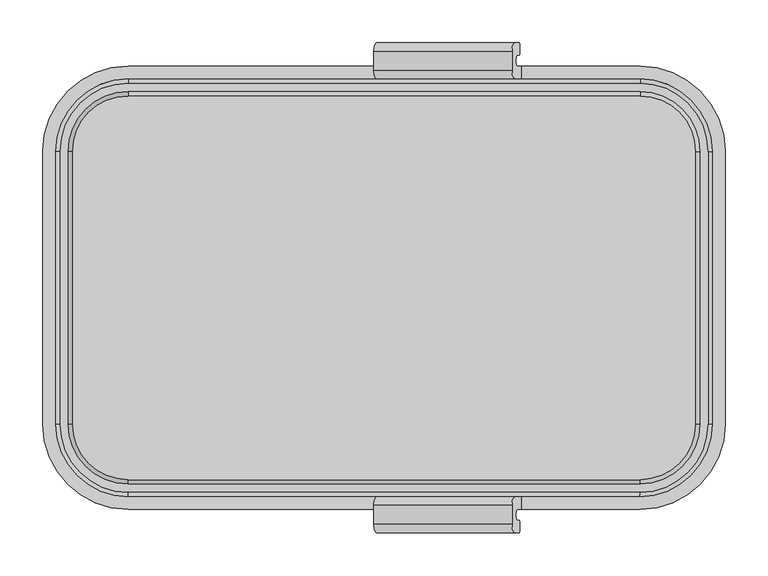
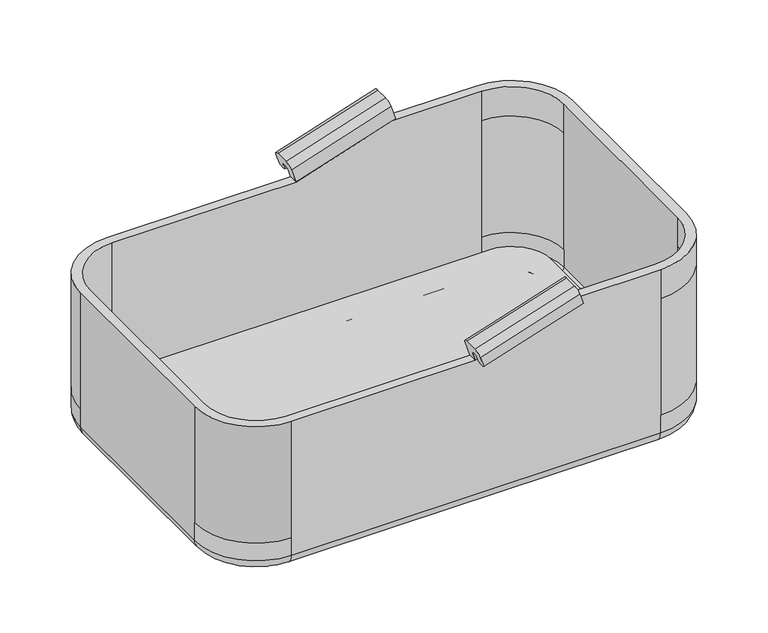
"""IFC4 building model written with IfcOpenShell, lengths in millimetres: furniture geometry, BIMHealth-Cot-LOD2A-v1 : BIMHealth-Cot-LOD2A-v1."""

from ifc_helpers import new_model, si_unit, point, frame, frame_2d, origin, place, context, project, spatial, polyline, circle_curve, ellipse_curve, trimmed, segment, composite_curve, outline, extrude, source, transform, mapped, element, save
from ifc_brep_helpers import plane_surface, cylinder_surface, revolved_surface, advanced_brep


def furniture_eb8bed29(model_context):
    return source(origin(), model_context, "Body", "SolidModel", [
        advanced_brep(
        [(300.0, -272.5, 783.3435359), (400.0, -172.5, 783.3435359), (400.0, -172.5, 813.3435359), (300.0, -272.5, 813.3435359), (300.0, -252.5, 763.3435359), (380.0, -172.5, 763.3435359), (300.0, -222.5, 783.3435359), (350.0, -172.5, 783.3435359), (370.0, -172.5, 763.3435359), (300.0, -242.5, 763.3435359), (300.0, -222.5, 788.3435359), (350.0, -172.5, 788.3435359), (300.0, -237.5, 783.3435359), (365.0, -172.5, 783.3435359), (365.0, -172.5, 803.3435359), (300.0, -237.5, 803.3435359), (300.0, -242.5, 778.3435359), (370.0, -172.5, 778.3435359), (300.0, -257.5, 783.3435359), (385.0, -172.5, 783.3435359), (380.0, -172.5, 778.3435359), (300.0, -252.5, 778.3435359), (300.0, -257.5, 813.3435359), (385.0, -172.5, 813.3435359), (300.0, -272.5, 1013.3435359), (300.0, -272.5, 1063.7133718), (155.4900007, -272.5, 1063.7133718), (-1.1191289, -272.5, 1013.3435359), (-300.0, -272.5, 1013.3435359), (-300.0, -272.5, 813.3435359), (-300.0, -272.5, 783.3435359), (-300.0, -252.5, 763.3435359), (-300.0, -242.5, 763.3435359), (-300.0, -222.5, 783.3435359), (-300.0, -222.5, 788.3435359), (-300.0, -237.5, 803.3435359), (-300.0, -237.5, 783.3435359), (-300.0, -242.5, 778.3435359), (-300.0, -252.5, 778.3435359), (-300.0, -257.5, 783.3435359), (-300.0, -257.5, 813.3435359), (-300.0, -257.5, 1013.3435359), (-1.1191289, -257.5, 1013.3435359), (155.4900007, -257.5, 1063.7133718), (300.0, -257.5, 1063.7133718), (300.0, -257.5, 1013.3435359), (-400.0, -172.5, 813.3435359), (-400.0, -172.5, 783.3435359), (-380.0, -172.5, 763.3435359), (-370.0, -172.5, 763.3435359), (-350.0, -172.5, 783.3435359), (-350.0, -172.5, 788.3435359), (-365.0, -172.5, 803.3435359), (-365.0, -172.5, 783.3435359), (-370.0, -172.5, 778.3435359), (-380.0, -172.5, 778.3435359), (-385.0, -172.5, 783.3435359), (-385.0, -172.5, 813.3435359), (-400.0, -172.5, 1013.3435359), (-400.0, 147.5, 1013.3435359), (-400.0, 147.5, 813.3435359), (-400.0, 147.5, 783.3435359), (-380.0, 147.5, 763.3435359), (-370.0, 147.5, 763.3435359), (-350.0, 147.5, 783.3435359), (-350.0, 147.5, 788.3435359), (-365.0, 147.5, 803.3435359), (-365.0, 147.5, 783.3435359), (-370.0, 147.5, 778.3435359), (-380.0, 147.5, 778.3435359), (-385.0, 147.5, 783.3435359), (-385.0, 147.5, 813.3435359), (-385.0, 147.5, 1013.3435359), (-385.0, -172.5, 1013.3435359), (-300.0, 247.5, 813.3435359), (-300.0, 247.5, 783.3435359), (-300.0, 227.5, 763.3435359), (-300.0, 217.5, 763.3435359), (-300.0, 197.5, 783.3435359), (-300.0, 197.5, 788.3435359), (-300.0, 212.5, 803.3435359), (-300.0, 212.5, 783.3435359), (-300.0, 217.5, 778.3435359), (-300.0, 227.5, 778.3435359), (-300.0, 232.5, 783.3435359), (-300.0, 232.5, 813.3435359), (-300.0, 247.5, 1013.3435359), (-1.1191289, 247.5, 1013.3435359), (155.4900007, 247.5, 1063.7133718), (300.0, 247.5, 1063.7133718), (300.0, 247.5, 1013.3435359), (300.0, 247.5, 813.3435359), (300.0, 247.5, 783.3435359), (300.0, 227.5, 763.3435359), (300.0, 217.5, 763.3435359), (300.0, 197.5, 783.3435359), (300.0, 197.5, 788.3435359), (300.0, 212.5, 803.3435359), (300.0, 212.5, 783.3435359), (300.0, 217.5, 778.3435359), (300.0, 227.5, 778.3435359), (300.0, 232.5, 783.3435359), (300.0, 232.5, 813.3435359), (300.0, 232.5, 1013.3435359), (300.0, 232.5, 1063.7133718), (155.4900007, 232.5, 1063.7133718), (-1.1191289, 232.5, 1013.3435359), (-300.0, 232.5, 1013.3435359), (400.0, 147.5, 813.3435359), (400.0, 147.5, 783.3435359), (380.0, 147.5, 763.3435359), (370.0, 147.5, 763.3435359), (350.0, 147.5, 783.3435359), (350.0, 147.5, 788.3435359), (365.0, 147.5, 803.3435359), (365.0, 147.5, 783.3435359), (370.0, 147.5, 778.3435359), (380.0, 147.5, 778.3435359), (385.0, 147.5, 783.3435359), (385.0, 147.5, 813.3435359), (400.0, 147.5, 1013.3435359), (400.0, 147.5, 1063.7133718), (400.0, -172.5, 1063.7133718), (400.0, -172.5, 1013.3435359), (385.0, -172.5, 1013.3435359), (385.0, -172.5, 1063.7133718), (385.0, 147.5, 1063.7133718), (385.0, 147.5, 1013.3435359)],
        [
            (0, 1, circle_curve(frame((300.0, -172.5, 783.3435359), z_axis=(0.0, 0.0, 1.0), x_axis=(1.0, 0.0, 0.0)), 100.0)),
            (1, 2),
            (2, 3, circle_curve(frame((300.0, -172.5, 813.3435359), z_axis=(0.0, 0.0, -1.0), x_axis=(1.0, 0.0, 0.0)), 100.0)),
            (3, 0),
            (0, 4, circle_curve(frame((300.0, -252.5, 783.3435359), z_axis=(1.0, 0.0, 0.0), x_axis=(0.0, 1.0, 0.0)), 20.0)),
            (4, 5, circle_curve(frame((300.0, -172.5, 763.3435359), z_axis=(0.0, 0.0, 1.0), x_axis=(1.0, 0.0, 0.0)), 80.0)),
            (5, 1, circle_curve(frame((380.0, -172.5, 783.3435359), z_axis=(0.0, -1.0, 0.0), x_axis=(-1.0, 0.0, 0.0)), 20.0)),
            (6, 7, circle_curve(frame((300.0, -172.5, 783.3435359), z_axis=(0.0, 0.0, 1.0), x_axis=(1.0, 0.0, 0.0)), 50.0)),
            (7, 8, circle_curve(frame((370.0, -172.5, 783.3435359), z_axis=(0.0, -1.0, 0.0), x_axis=(-1.0, 0.0, 0.0)), 20.0)),
            (8, 9, circle_curve(frame((300.0, -172.5, 763.3435359), z_axis=(0.0, 0.0, -1.0), x_axis=(1.0, 0.0, 0.0)), 70.0)),
            (9, 6, circle_curve(frame((300.0, -242.5, 783.3435359), z_axis=(1.0, 0.0, 0.0), x_axis=(0.0, 1.0, 0.0)), 20.0)),
            (6, 10),
            (10, 11, circle_curve(frame((300.0, -172.5, 788.3435359), z_axis=(0.0, 0.0, 1.0), x_axis=(1.0, 0.0, 0.0)), 50.0)),
            (11, 7),
            (12, 13, circle_curve(frame((300.0, -172.5, 783.3435359), z_axis=(0.0, 0.0, 1.0), x_axis=(1.0, 0.0, 0.0)), 65.0)),
            (13, 14),
            (14, 15, circle_curve(frame((300.0, -172.5, 803.3435359), z_axis=(0.0, 0.0, -1.0), x_axis=(1.0, 0.0, 0.0)), 65.0)),
            (15, 12),
            (12, 16, circle_curve(frame((300.0, -242.5, 783.3435359), z_axis=(-1.0, 0.0, 0.0), x_axis=(0.0, 1.0, 0.0)), 5.0)),
            (16, 17, circle_curve(frame((300.0, -172.5, 778.3435359), z_axis=(0.0, 0.0, 1.0), x_axis=(1.0, 0.0, 0.0)), 70.0)),
            (17, 13, circle_curve(frame((370.0, -172.5, 783.3435359), z_axis=(0.0, 1.0, 0.0), x_axis=(-1.0, 0.0, 0.0)), 5.0)),
            (18, 19, circle_curve(frame((300.0, -172.5, 783.3435359), z_axis=(0.0, 0.0, 1.0), x_axis=(1.0, 0.0, 0.0)), 85.0)),
            (19, 20, circle_curve(frame((380.0, -172.5, 783.3435359), z_axis=(0.0, 1.0, 0.0), x_axis=(-1.0, 0.0, 0.0)), 5.0)),
            (20, 21, circle_curve(frame((300.0, -172.5, 778.3435359), z_axis=(0.0, 0.0, -1.0), x_axis=(1.0, 0.0, 0.0)), 80.0)),
            (21, 18, circle_curve(frame((300.0, -252.5, 783.3435359), z_axis=(-1.0, 0.0, 0.0), x_axis=(0.0, 1.0, 0.0)), 5.0)),
            (18, 22),
            (22, 23, circle_curve(frame((300.0, -172.5, 813.3435359), z_axis=(0.0, 0.0, 1.0), x_axis=(1.0, 0.0, 0.0)), 85.0)),
            (23, 19),
            (3, 24),
            (24, 25),
            (25, 26),
            (26, 27),
            (27, 28),
            (28, 29),
            (29, 30),
            (30, 0),
            (30, 31, circle_curve(frame((-300.0, -252.5, 783.3435359), z_axis=(1.0, 0.0, 0.0), x_axis=(0.0, 1.0, 0.0)), 20.0)),
            (31, 4),
            (9, 32),
            (32, 33, circle_curve(frame((-300.0, -242.5, 783.3435359), z_axis=(1.0, 0.0, 0.0), x_axis=(0.0, 1.0, 0.0)), 20.0)),
            (33, 6),
            (33, 34),
            (34, 10),
            (15, 35),
            (35, 36),
            (36, 12),
            (36, 37, circle_curve(frame((-300.0, -242.5, 783.3435359), z_axis=(-1.0, 0.0, 0.0), x_axis=(0.0, 1.0, 0.0)), 5.0)),
            (37, 16),
            (21, 38),
            (38, 39, circle_curve(frame((-300.0, -252.5, 783.3435359), z_axis=(-1.0, 0.0, 0.0), x_axis=(0.0, 1.0, 0.0)), 5.0)),
            (39, 18),
            (39, 40),
            (40, 41),
            (41, 42),
            (42, 43),
            (43, 44),
            (44, 45),
            (45, 22),
            (29, 46, circle_curve(frame((-300.0, -172.5, 813.3435359), z_axis=(0.0, 0.0, -1.0), x_axis=(0.0, -1.0, 0.0)), 100.0)),
            (46, 47),
            (47, 30, circle_curve(frame((-300.0, -172.5, 783.3435359), z_axis=(0.0, 0.0, 1.0), x_axis=(0.0, -1.0, 0.0)), 100.0)),
            (47, 48, circle_curve(frame((-380.0, -172.5, 783.3435359), z_axis=(0.0, -1.0, 0.0), x_axis=(1.0, 0.0, 0.0)), 20.0)),
            (48, 31, circle_curve(frame((-300.0, -172.5, 763.3435359), z_axis=(0.0, 0.0, 1.0), x_axis=(0.0, -1.0, 0.0)), 80.0)),
            (32, 49, circle_curve(frame((-300.0, -172.5, 763.3435359), z_axis=(0.0, 0.0, -1.0), x_axis=(0.0, -1.0, 0.0)), 70.0)),
            (49, 50, circle_curve(frame((-370.0, -172.5, 783.3435359), z_axis=(0.0, -1.0, 0.0), x_axis=(1.0, 0.0, 0.0)), 20.0)),
            (50, 33, circle_curve(frame((-300.0, -172.5, 783.3435359), z_axis=(0.0, 0.0, 1.0), x_axis=(0.0, -1.0, 0.0)), 50.0)),
            (50, 51),
            (51, 34, circle_curve(frame((-300.0, -172.5, 788.3435359), z_axis=(0.0, 0.0, 1.0), x_axis=(0.0, -1.0, 0.0)), 50.0)),
            (35, 52, circle_curve(frame((-300.0, -172.5, 803.3435359), z_axis=(0.0, 0.0, -1.0), x_axis=(0.0, -1.0, 0.0)), 65.0)),
            (52, 53),
            (53, 36, circle_curve(frame((-300.0, -172.5, 783.3435359), z_axis=(0.0, 0.0, 1.0), x_axis=(0.0, -1.0, 0.0)), 65.0)),
            (53, 54, circle_curve(frame((-370.0, -172.5, 783.3435359), z_axis=(0.0, 1.0, 0.0), x_axis=(1.0, 0.0, 0.0)), 5.0)),
            (54, 37, circle_curve(frame((-300.0, -172.5, 778.3435359), z_axis=(0.0, 0.0, 1.0), x_axis=(0.0, -1.0, 0.0)), 70.0)),
            (38, 55, circle_curve(frame((-300.0, -172.5, 778.3435359), z_axis=(0.0, 0.0, -1.0), x_axis=(0.0, -1.0, 0.0)), 80.0)),
            (55, 56, circle_curve(frame((-380.0, -172.5, 783.3435359), z_axis=(0.0, 1.0, 0.0), x_axis=(1.0, 0.0, 0.0)), 5.0)),
            (56, 39, circle_curve(frame((-300.0, -172.5, 783.3435359), z_axis=(0.0, 0.0, 1.0), x_axis=(0.0, -1.0, 0.0)), 85.0)),
            (56, 57),
            (57, 40, circle_curve(frame((-300.0, -172.5, 813.3435359), z_axis=(0.0, 0.0, 1.0), x_axis=(0.0, -1.0, 0.0)), 85.0)),
            (46, 58),
            (58, 59),
            (59, 60),
            (60, 61),
            (61, 47),
            (61, 62, circle_curve(frame((-380.0, 147.5, 783.3435359), z_axis=(0.0, -1.0, 0.0), x_axis=(1.0, 0.0, 0.0)), 20.0)),
            (62, 48),
            (49, 63),
            (63, 64, circle_curve(frame((-370.0, 147.5, 783.3435359), z_axis=(0.0, -1.0, 0.0), x_axis=(1.0, 0.0, 0.0)), 20.0)),
            (64, 50),
            (64, 65),
            (65, 51),
            (52, 66),
            (66, 67),
            (67, 53),
            (67, 68, circle_curve(frame((-370.0, 147.5, 783.3435359), z_axis=(0.0, 1.0, 0.0), x_axis=(1.0, 0.0, 0.0)), 5.0)),
            (68, 54),
            (55, 69),
            (69, 70, circle_curve(frame((-380.0, 147.5, 783.3435359), z_axis=(0.0, 1.0, 0.0), x_axis=(1.0, 0.0, 0.0)), 5.0)),
            (70, 56),
            (70, 71),
            (71, 72),
            (72, 73),
            (73, 57),
            (60, 74, circle_curve(frame((-300.0, 147.5, 813.3435359), z_axis=(0.0, 0.0, -1.0), x_axis=(-1.0, 0.0, 0.0)), 100.0)),
            (74, 75),
            (75, 61, circle_curve(frame((-300.0, 147.5, 783.3435359), z_axis=(0.0, 0.0, 1.0), x_axis=(-1.0, 0.0, 0.0)), 100.0)),
            (75, 76, circle_curve(frame((-300.0, 227.5, 783.3435359), z_axis=(-1.0, 0.0, 0.0), x_axis=(0.0, -1.0, 0.0)), 20.0)),
            (76, 62, circle_curve(frame((-300.0, 147.5, 763.3435359), z_axis=(0.0, 0.0, 1.0), x_axis=(-1.0, 0.0, 0.0)), 80.0)),
            (63, 77, circle_curve(frame((-300.0, 147.5, 763.3435359), z_axis=(0.0, 0.0, -1.0), x_axis=(-1.0, 0.0, 0.0)), 70.0)),
            (77, 78, circle_curve(frame((-300.0, 217.5, 783.3435359), z_axis=(-1.0, 0.0, 0.0), x_axis=(0.0, -1.0, 0.0)), 20.0)),
            (78, 64, circle_curve(frame((-300.0, 147.5, 783.3435359), z_axis=(0.0, 0.0, 1.0), x_axis=(-1.0, 0.0, 0.0)), 50.0)),
            (78, 79),
            (79, 65, circle_curve(frame((-300.0, 147.5, 788.3435359), z_axis=(0.0, 0.0, 1.0), x_axis=(-1.0, 0.0, 0.0)), 50.0)),
            (66, 80, circle_curve(frame((-300.0, 147.5, 803.3435359), z_axis=(0.0, 0.0, -1.0), x_axis=(-1.0, 0.0, 0.0)), 65.0)),
            (80, 81),
            (81, 67, circle_curve(frame((-300.0, 147.5, 783.3435359), z_axis=(0.0, 0.0, 1.0), x_axis=(-1.0, 0.0, 0.0)), 65.0)),
            (81, 82, circle_curve(frame((-300.0, 217.5, 783.3435359), z_axis=(1.0, 0.0, 0.0), x_axis=(0.0, -1.0, 0.0)), 5.0)),
            (82, 68, circle_curve(frame((-300.0, 147.5, 778.3435359), z_axis=(0.0, 0.0, 1.0), x_axis=(-1.0, 0.0, 0.0)), 70.0)),
            (69, 83, circle_curve(frame((-300.0, 147.5, 778.3435359), z_axis=(0.0, 0.0, -1.0), x_axis=(-1.0, 0.0, 0.0)), 80.0)),
            (83, 84, circle_curve(frame((-300.0, 227.5, 783.3435359), z_axis=(1.0, 0.0, 0.0), x_axis=(0.0, -1.0, 0.0)), 5.0)),
            (84, 70, circle_curve(frame((-300.0, 147.5, 783.3435359), z_axis=(0.0, 0.0, 1.0), x_axis=(-1.0, 0.0, 0.0)), 85.0)),
            (84, 85),
            (85, 71, circle_curve(frame((-300.0, 147.5, 813.3435359), z_axis=(0.0, 0.0, 1.0), x_axis=(-1.0, 0.0, 0.0)), 85.0)),
            (74, 86),
            (86, 87),
            (87, 88),
            (88, 89),
            (89, 90),
            (90, 91),
            (91, 92),
            (92, 75),
            (92, 93, circle_curve(frame((300.0, 227.5, 783.3435359), z_axis=(-1.0, 0.0, 0.0), x_axis=(0.0, -1.0, 0.0)), 20.0)),
            (93, 76),
            (77, 94),
            (94, 95, circle_curve(frame((300.0, 217.5, 783.3435359), z_axis=(-1.0, 0.0, 0.0), x_axis=(0.0, -1.0, 0.0)), 20.0)),
            (95, 78),
            (95, 96),
            (96, 79),
            (80, 97),
            (97, 98),
            (98, 81),
            (98, 99, circle_curve(frame((300.0, 217.5, 783.3435359), z_axis=(1.0, 0.0, 0.0), x_axis=(0.0, -1.0, 0.0)), 5.0)),
            (99, 82),
            (83, 100),
            (100, 101, circle_curve(frame((300.0, 227.5, 783.3435359), z_axis=(1.0, 0.0, 0.0), x_axis=(0.0, -1.0, 0.0)), 5.0)),
            (101, 84),
            (101, 102),
            (102, 103),
            (103, 104),
            (104, 105),
            (105, 106),
            (106, 107),
            (107, 85),
            (91, 108, circle_curve(frame((300.0, 147.5, 813.3435359), z_axis=(0.0, 0.0, -1.0), x_axis=(0.0, 1.0, 0.0)), 100.0)),
            (108, 109),
            (109, 92, circle_curve(frame((300.0, 147.5, 783.3435359), z_axis=(0.0, 0.0, 1.0), x_axis=(0.0, 1.0, 0.0)), 100.0)),
            (109, 110, circle_curve(frame((380.0, 147.5, 783.3435359), z_axis=(0.0, 1.0, 0.0), x_axis=(-1.0, 0.0, 0.0)), 20.0)),
            (110, 93, circle_curve(frame((300.0, 147.5, 763.3435359), z_axis=(0.0, 0.0, 1.0), x_axis=(0.0, 1.0, 0.0)), 80.0)),
            (94, 111, circle_curve(frame((300.0, 147.5, 763.3435359), z_axis=(0.0, 0.0, -1.0), x_axis=(0.0, 1.0, 0.0)), 70.0)),
            (111, 112, circle_curve(frame((370.0, 147.5, 783.3435359), z_axis=(0.0, 1.0, 0.0), x_axis=(-1.0, 0.0, 0.0)), 20.0)),
            (112, 95, circle_curve(frame((300.0, 147.5, 783.3435359), z_axis=(0.0, 0.0, 1.0), x_axis=(0.0, 1.0, 0.0)), 50.0)),
            (112, 113),
            (113, 96, circle_curve(frame((300.0, 147.5, 788.3435359), z_axis=(0.0, 0.0, 1.0), x_axis=(0.0, 1.0, 0.0)), 50.0)),
            (97, 114, circle_curve(frame((300.0, 147.5, 803.3435359), z_axis=(0.0, 0.0, -1.0), x_axis=(0.0, 1.0, 0.0)), 65.0)),
            (114, 115),
            (115, 98, circle_curve(frame((300.0, 147.5, 783.3435359), z_axis=(0.0, 0.0, 1.0), x_axis=(0.0, 1.0, 0.0)), 65.0)),
            (115, 116, circle_curve(frame((370.0, 147.5, 783.3435359), z_axis=(0.0, -1.0, 0.0), x_axis=(-1.0, 0.0, 0.0)), 5.0)),
            (116, 99, circle_curve(frame((300.0, 147.5, 778.3435359), z_axis=(0.0, 0.0, 1.0), x_axis=(0.0, 1.0, 0.0)), 70.0)),
            (100, 117, circle_curve(frame((300.0, 147.5, 778.3435359), z_axis=(0.0, 0.0, -1.0), x_axis=(0.0, 1.0, 0.0)), 80.0)),
            (117, 118, circle_curve(frame((380.0, 147.5, 783.3435359), z_axis=(0.0, -1.0, 0.0), x_axis=(-1.0, 0.0, 0.0)), 5.0)),
            (118, 101, circle_curve(frame((300.0, 147.5, 783.3435359), z_axis=(0.0, 0.0, 1.0), x_axis=(0.0, 1.0, 0.0)), 85.0)),
            (118, 119),
            (119, 102, circle_curve(frame((300.0, 147.5, 813.3435359), z_axis=(0.0, 0.0, 1.0), x_axis=(0.0, 1.0, 0.0)), 85.0)),
            (1, 109),
            (108, 120),
            (120, 121),
            (121, 122),
            (122, 123),
            (123, 2),
            (5, 110),
            (8, 111),
            (7, 112),
            (11, 113),
            (14, 114),
            (13, 115),
            (17, 116),
            (20, 117),
            (19, 118),
            (23, 124),
            (124, 125),
            (125, 126),
            (126, 127),
            (127, 119),
            (86, 59, circle_curve(frame((-300.0, 147.5, 1013.3435359), z_axis=(0.0, 0.0, 1.0), x_axis=(1.0, 0.0, 0.0)), 100.0)),
            (58, 28, circle_curve(frame((-300.0, -172.5, 1013.3435359), z_axis=(0.0, 0.0, 1.0), x_axis=(1.0, 0.0, 0.0)), 100.0)),
            (27, 42),
            (41, 73, circle_curve(frame((-300.0, -172.5, 1013.3435359), z_axis=(0.0, 0.0, -1.0), x_axis=(1.0, 0.0, 0.0)), 85.0)),
            (72, 107, circle_curve(frame((-300.0, 147.5, 1013.3435359), z_axis=(0.0, 0.0, -1.0), x_axis=(1.0, 0.0, 0.0)), 85.0)),
            (106, 87),
            (123, 24, circle_curve(frame((300.0, -172.5, 1013.3435359), z_axis=(0.0, 0.0, -1.0), x_axis=(1.0, 0.0, 0.0)), 100.0)),
            (90, 120, circle_curve(frame((300.0, 147.5, 1013.3435359), z_axis=(0.0, 0.0, -1.0), x_axis=(1.0, 0.0, 0.0)), 100.0)),
            (127, 103, circle_curve(frame((300.0, 147.5, 1013.3435359), z_axis=(0.0, 0.0, 1.0), x_axis=(1.0, 0.0, 0.0)), 85.0)),
            (45, 124, circle_curve(frame((300.0, -172.5, 1013.3435359), z_axis=(0.0, 0.0, 1.0), x_axis=(1.0, 0.0, 0.0)), 85.0)),
            (26, 43),
            (105, 88),
            (104, 126, circle_curve(frame((300.0, 147.5, 1063.7133718), z_axis=(0.0, 0.0, -1.0), x_axis=(1.0, 0.0, 0.0)), 85.0)),
            (125, 44, circle_curve(frame((300.0, -172.5, 1063.7133718), z_axis=(0.0, 0.0, -1.0), x_axis=(1.0, 0.0, 0.0)), 85.0)),
            (25, 122, circle_curve(frame((300.0, -172.5, 1063.7133718), z_axis=(0.0, 0.0, 1.0), x_axis=(1.0, 0.0, 0.0)), 100.0)),
            (121, 89, circle_curve(frame((300.0, 147.5, 1063.7133718), z_axis=(0.0, 0.0, 1.0), x_axis=(1.0, 0.0, 0.0)), 100.0)),
        ],
        [
            cylinder_surface(frame((300.0, -172.5, 763.3435359), z_axis=(0.0, 0.0, -1.0), x_axis=(1.0, 0.0, 0.0)), 100.0),
            revolved_surface(trimmed(ellipse_curve(frame((380.0, -172.5, 783.3435359), z_axis=(0.0, 1.0, 0.0), x_axis=(-1.0, 0.0, 0.0)), 20.0, 20.0), [point((400.0, -172.5, 783.3435359))], [point((380.0, -172.5, 763.3435359))], True, "CARTESIAN"), (300.0, -172.5, 763.3435359), (0.0, 0.0, -1.0)),
            revolved_surface(trimmed(ellipse_curve(frame((370.0, -172.5, 783.3435359), z_axis=(0.0, 1.0, 0.0), x_axis=(-1.0, 0.0, 0.0)), 20.0, 20.0), [point((370.0, -172.5, 763.3435359))], [point((350.0, -172.5, 783.3435359))], True, "CARTESIAN"), (300.0, -172.5, 763.3435359), (0.0, 0.0, -1.0)),
            revolved_surface(polyline([(350.0, -172.5, 783.3435359), (350.0, -172.5, 788.3435359)]), (300.0, -172.5, 763.3435359), (0.0, 0.0, -1.0)),
            cylinder_surface(frame((300.0, -172.5, 763.3435359), z_axis=(0.0, 0.0, -1.0), x_axis=(1.0, 0.0, 0.0)), 65.0),
            revolved_surface(trimmed(ellipse_curve(frame((370.0, -172.5, 783.3435359), z_axis=(0.0, -1.0, 0.0), x_axis=(-1.0, 0.0, 0.0)), 5.0, 5.0), [point((365.0, -172.5, 783.3435359))], [point((370.0, -172.5, 778.3435359))], True, "CARTESIAN"), (300.0, -172.5, 763.3435359), (0.0, 0.0, -1.0)),
            revolved_surface(trimmed(ellipse_curve(frame((380.0, -172.5, 783.3435359), z_axis=(0.0, -1.0, 0.0), x_axis=(-1.0, 0.0, 0.0)), 5.0, 5.0), [point((380.0, -172.5, 778.3435359))], [point((385.0, -172.5, 783.3435359))], True, "CARTESIAN"), (300.0, -172.5, 763.3435359), (0.0, 0.0, -1.0)),
            revolved_surface(polyline([(385.0, -172.5, 783.3435359), (385.0, -172.5, 813.3435359)]), (300.0, -172.5, 763.3435359), (0.0, 0.0, -1.0)),
            plane_surface(frame((300.0, -272.5, 813.3435359), z_axis=(0.0, -1.0, 0.0), x_axis=(-1.0, 0.0, 0.0))),
            cylinder_surface(frame((300.0, -252.5, 783.3435359), z_axis=(1.0, 0.0, 0.0), x_axis=(0.0, 1.0, 0.0)), 20.0),
            cylinder_surface(frame((300.0, -242.5, 783.3435359), z_axis=(1.0, 0.0, 0.0), x_axis=(0.0, 1.0, 0.0)), 20.0),
            plane_surface(frame((300.0, -222.5, 783.3435359), z_axis=(0.0, 1.0, 0.0), x_axis=(-1.0, 0.0, 0.0))),
            plane_surface(frame((300.0, -237.5, 803.3435359), z_axis=(0.0, -1.0, 0.0), x_axis=(-1.0, 0.0, 0.0))),
            revolved_surface(polyline([(-300.0, -237.5, 783.3435359), (300.0, -237.5, 783.3435359)]), (300.0, -242.5, 783.3435359), (-1.0, 0.0, 0.0)),
            revolved_surface(polyline([(-300.0, -247.5, 783.3435359), (300.0, -247.5, 783.3435359)]), (300.0, -252.5, 783.3435359), (-1.0, 0.0, 0.0)),
            plane_surface(frame((300.0, -257.5, 783.3435359), z_axis=(0.0, 1.0, 0.0), x_axis=(-1.0, 0.0, 0.0))),
            cylinder_surface(frame((-300.0, -172.5, 763.3435359), z_axis=(0.0, 0.0, -1.0), x_axis=(0.0, -1.0, 0.0)), 100.0),
            revolved_surface(trimmed(ellipse_curve(frame((-300.0, -252.5, 783.3435359), z_axis=(1.0, 0.0, 0.0), x_axis=(0.0, 1.0, 0.0)), 20.0, 20.0), [point((-300.0, -272.5, 783.3435359))], [point((-300.0, -252.5, 763.3435359))], True, "CARTESIAN"), (-300.0, -172.5, 763.3435359), (0.0, 0.0, -1.0)),
            revolved_surface(trimmed(ellipse_curve(frame((-300.0, -242.5, 783.3435359), z_axis=(1.0, 0.0, 0.0), x_axis=(0.0, 1.0, 0.0)), 20.0, 20.0), [point((-300.0, -242.5, 763.3435359))], [point((-300.0, -222.5, 783.3435359))], True, "CARTESIAN"), (-300.0, -172.5, 763.3435359), (0.0, 0.0, -1.0)),
            revolved_surface(polyline([(-300.0, -222.5, 783.3435359), (-300.0, -222.5, 788.3435359)]), (-300.0, -172.5, 763.3435359), (0.0, 0.0, -1.0)),
            cylinder_surface(frame((-300.0, -172.5, 763.3435359), z_axis=(0.0, 0.0, -1.0), x_axis=(0.0, -1.0, 0.0)), 65.0),
            revolved_surface(trimmed(ellipse_curve(frame((-300.0, -242.5, 783.3435359), z_axis=(-1.0, 0.0, 0.0), x_axis=(0.0, 1.0, 0.0)), 5.0, 5.0), [point((-300.0, -237.5, 783.3435359))], [point((-300.0, -242.5, 778.3435359))], True, "CARTESIAN"), (-300.0, -172.5, 763.3435359), (0.0, 0.0, -1.0)),
            revolved_surface(trimmed(ellipse_curve(frame((-300.0, -252.5, 783.3435359), z_axis=(-1.0, 0.0, 0.0), x_axis=(0.0, 1.0, 0.0)), 5.0, 5.0), [point((-300.0, -252.5, 778.3435359))], [point((-300.0, -257.5, 783.3435359))], True, "CARTESIAN"), (-300.0, -172.5, 763.3435359), (0.0, 0.0, -1.0)),
            revolved_surface(polyline([(-300.0, -257.5, 783.3435359), (-300.0, -257.5, 813.3435359)]), (-300.0, -172.5, 763.3435359), (0.0, 0.0, -1.0)),
            plane_surface(frame((-400.0, -172.5, 813.3435359), z_axis=(-1.0, 0.0, 0.0), x_axis=(0.0, 1.0, 0.0))),
            cylinder_surface(frame((-380.0, -172.5, 783.3435359), z_axis=(0.0, -1.0, 0.0), x_axis=(1.0, 0.0, 0.0)), 20.0),
            cylinder_surface(frame((-370.0, -172.5, 783.3435359), z_axis=(0.0, -1.0, 0.0), x_axis=(1.0, 0.0, 0.0)), 20.0),
            plane_surface(frame((-350.0, -172.5, 783.3435359), z_axis=(1.0, 0.0, 0.0), x_axis=(0.0, 1.0, 0.0))),
            plane_surface(frame((-365.0, -172.5, 803.3435359), z_axis=(-1.0, 0.0, 0.0), x_axis=(0.0, 1.0, 0.0))),
            revolved_surface(polyline([(-365.0, 147.5, 783.3435359), (-365.0, -172.5, 783.3435359)]), (-370.0, -172.5, 783.3435359), (0.0, 1.0, 0.0)),
            revolved_surface(polyline([(-375.0, 147.5, 783.3435359), (-375.0, -172.5, 783.3435359)]), (-380.0, -172.5, 783.3435359), (0.0, 1.0, 0.0)),
            plane_surface(frame((-385.0, -172.5, 783.3435359), z_axis=(1.0, 0.0, 0.0), x_axis=(0.0, 1.0, 0.0))),
            cylinder_surface(frame((-300.0, 147.5, 763.3435359), z_axis=(0.0, 0.0, -1.0), x_axis=(-1.0, 0.0, 0.0)), 100.0),
            revolved_surface(trimmed(ellipse_curve(frame((-380.0, 147.5, 783.3435359), z_axis=(0.0, -1.0, 0.0), x_axis=(1.0, 0.0, 0.0)), 20.0, 20.0), [point((-400.0, 147.5, 783.3435359))], [point((-380.0, 147.5, 763.3435359))], True, "CARTESIAN"), (-300.0, 147.5, 763.3435359), (0.0, 0.0, -1.0)),
            revolved_surface(trimmed(ellipse_curve(frame((-370.0, 147.5, 783.3435359), z_axis=(0.0, -1.0, 0.0), x_axis=(1.0, 0.0, 0.0)), 20.0, 20.0), [point((-370.0, 147.5, 763.3435359))], [point((-350.0, 147.5, 783.3435359))], True, "CARTESIAN"), (-300.0, 147.5, 763.3435359), (0.0, 0.0, -1.0)),
            revolved_surface(polyline([(-350.0, 147.5, 783.3435359), (-350.0, 147.5, 788.3435359)]), (-300.0, 147.5, 763.3435359), (0.0, 0.0, -1.0)),
            cylinder_surface(frame((-300.0, 147.5, 763.3435359), z_axis=(0.0, 0.0, -1.0), x_axis=(-1.0, 0.0, 0.0)), 65.0),
            revolved_surface(trimmed(ellipse_curve(frame((-370.0, 147.5, 783.3435359), z_axis=(0.0, 1.0, 0.0), x_axis=(1.0, 0.0, 0.0)), 5.0, 5.0), [point((-365.0, 147.5, 783.3435359))], [point((-370.0, 147.5, 778.3435359))], True, "CARTESIAN"), (-300.0, 147.5, 763.3435359), (0.0, 0.0, -1.0)),
            revolved_surface(trimmed(ellipse_curve(frame((-380.0, 147.5, 783.3435359), z_axis=(0.0, 1.0, 0.0), x_axis=(1.0, 0.0, 0.0)), 5.0, 5.0), [point((-380.0, 147.5, 778.3435359))], [point((-385.0, 147.5, 783.3435359))], True, "CARTESIAN"), (-300.0, 147.5, 763.3435359), (0.0, 0.0, -1.0)),
            revolved_surface(polyline([(-385.0, 147.5, 783.3435359), (-385.0, 147.5, 813.3435359)]), (-300.0, 147.5, 763.3435359), (0.0, 0.0, -1.0)),
            plane_surface(frame((-300.0, 247.5, 813.3435359), z_axis=(0.0, 1.0, 0.0), x_axis=(1.0, 0.0, 0.0))),
            cylinder_surface(frame((-300.0, 227.5, 783.3435359), z_axis=(-1.0, 0.0, 0.0), x_axis=(0.0, -1.0, 0.0)), 20.0),
            cylinder_surface(frame((-300.0, 217.5, 783.3435359), z_axis=(-1.0, 0.0, 0.0), x_axis=(0.0, -1.0, 0.0)), 20.0),
            plane_surface(frame((-300.0, 197.5, 783.3435359), z_axis=(0.0, -1.0, 0.0), x_axis=(1.0, 0.0, 0.0))),
            plane_surface(frame((-300.0, 212.5, 803.3435359), z_axis=(0.0, 1.0, 0.0), x_axis=(1.0, 0.0, 0.0))),
            revolved_surface(polyline([(300.0, 212.5, 783.3435359), (-300.0, 212.5, 783.3435359)]), (-300.0, 217.5, 783.3435359), (1.0, 0.0, 0.0)),
            revolved_surface(polyline([(300.0, 222.5, 783.3435359), (-300.0, 222.5, 783.3435359)]), (-300.0, 227.5, 783.3435359), (1.0, 0.0, 0.0)),
            plane_surface(frame((-300.0, 232.5, 783.3435359), z_axis=(0.0, -1.0, 0.0), x_axis=(1.0, 0.0, 0.0))),
            cylinder_surface(frame((300.0, 147.5, 763.3435359), z_axis=(0.0, 0.0, -1.0), x_axis=(0.0, 1.0, 0.0)), 100.0),
            revolved_surface(trimmed(ellipse_curve(frame((300.0, 227.5, 783.3435359), z_axis=(-1.0, 0.0, 0.0), x_axis=(0.0, -1.0, 0.0)), 20.0, 20.0), [point((300.0, 247.5, 783.3435359))], [point((300.0, 227.5, 763.3435359))], True, "CARTESIAN"), (300.0, 147.5, 763.3435359), (0.0, 0.0, -1.0)),
            revolved_surface(trimmed(ellipse_curve(frame((300.0, 217.5, 783.3435359), z_axis=(-1.0, 0.0, 0.0), x_axis=(0.0, -1.0, 0.0)), 20.0, 20.0), [point((300.0, 217.5, 763.3435359))], [point((300.0, 197.5, 783.3435359))], True, "CARTESIAN"), (300.0, 147.5, 763.3435359), (0.0, 0.0, -1.0)),
            revolved_surface(polyline([(300.0, 197.5, 783.3435359), (300.0, 197.5, 788.3435359)]), (300.0, 147.5, 763.3435359), (0.0, 0.0, -1.0)),
            cylinder_surface(frame((300.0, 147.5, 763.3435359), z_axis=(0.0, 0.0, -1.0), x_axis=(0.0, 1.0, 0.0)), 65.0),
            revolved_surface(trimmed(ellipse_curve(frame((300.0, 217.5, 783.3435359), z_axis=(1.0, 0.0, 0.0), x_axis=(0.0, -1.0, 0.0)), 5.0, 5.0), [point((300.0, 212.5, 783.3435359))], [point((300.0, 217.5, 778.3435359))], True, "CARTESIAN"), (300.0, 147.5, 763.3435359), (0.0, 0.0, -1.0)),
            revolved_surface(trimmed(ellipse_curve(frame((300.0, 227.5, 783.3435359), z_axis=(1.0, 0.0, 0.0), x_axis=(0.0, -1.0, 0.0)), 5.0, 5.0), [point((300.0, 227.5, 778.3435359))], [point((300.0, 232.5, 783.3435359))], True, "CARTESIAN"), (300.0, 147.5, 763.3435359), (0.0, 0.0, -1.0)),
            revolved_surface(polyline([(300.0, 232.5, 783.3435359), (300.0, 232.5, 813.3435359)]), (300.0, 147.5, 763.3435359), (0.0, 0.0, -1.0)),
            plane_surface(frame((400.0, 147.5, 813.3435359), z_axis=(1.0, 0.0, 0.0), x_axis=(0.0, -1.0, 0.0))),
            cylinder_surface(frame((380.0, 147.5, 783.3435359), z_axis=(0.0, 1.0, 0.0), x_axis=(-1.0, 0.0, 0.0)), 20.0),
            plane_surface(frame((380.0, 147.5, 763.3435359), z_axis=(0.0, 0.0, -1.0), x_axis=(0.0, -1.0, 0.0))),
            cylinder_surface(frame((370.0, 147.5, 783.3435359), z_axis=(0.0, 1.0, 0.0), x_axis=(-1.0, 0.0, 0.0)), 20.0),
            plane_surface(frame((350.0, 147.5, 783.3435359), z_axis=(-1.0, 0.0, 0.0), x_axis=(0.0, -1.0, 0.0))),
            plane_surface(frame((350.0, 147.5, 788.3435359), z_axis=(0.0, 0.0, -1.0), x_axis=(0.0, -1.0, 0.0))),
            plane_surface(frame((320.0, 147.5, 803.3435359), z_axis=(0.0, 0.0, 1.0), x_axis=(0.0, -1.0, 0.0))),
            plane_surface(frame((365.0, 147.5, 803.3435359), z_axis=(1.0, 0.0, 0.0), x_axis=(0.0, -1.0, 0.0))),
            revolved_surface(polyline([(365.0, -172.5, 783.3435359), (365.0, 147.5, 783.3435359)]), (370.0, 147.5, 783.3435359), (0.0, -1.0, 0.0)),
            plane_surface(frame((370.0, 147.5, 778.3435359), z_axis=(0.0, 0.0, 1.0), x_axis=(0.0, -1.0, 0.0))),
            revolved_surface(polyline([(375.0, -172.5, 783.3435359), (375.0, 147.5, 783.3435359)]), (380.0, 147.5, 783.3435359), (0.0, -1.0, 0.0)),
            plane_surface(frame((385.0, 147.5, 783.3435359), z_axis=(-1.0, 0.0, 0.0), x_axis=(0.0, -1.0, 0.0))),
            plane_surface(frame((400.0, -172.5, 1013.3435359), z_axis=(0.0, 0.0, 1.0), x_axis=(0.0, 1.0, 0.0))),
            cylinder_surface(frame((300.0, -172.5, 813.3435359), z_axis=(0.0, 0.0, 1.0), x_axis=(1.0, 0.0, 0.0)), 100.0),
            cylinder_surface(frame((300.0, 147.5, 813.3435359), z_axis=(0.0, 0.0, 1.0), x_axis=(1.0, 0.0, 0.0)), 100.0),
            cylinder_surface(frame((-300.0, 147.5, 813.3435359), z_axis=(0.0, 0.0, 1.0), x_axis=(1.0, 0.0, 0.0)), 100.0),
            cylinder_surface(frame((-300.0, -172.5, 813.3435359), z_axis=(0.0, 0.0, 1.0), x_axis=(1.0, 0.0, 0.0)), 100.0),
            revolved_surface(polyline([(385.0, 147.5, 813.3435359), (385.0, 147.5, 1013.3435359)]), (300.0, 147.5, 813.3435359), (0.0, 0.0, -1.0)),
            revolved_surface(polyline([(385.0, -172.5, 813.3435359), (385.0, -172.5, 1013.3435359)]), (300.0, -172.5, 813.3435359), (0.0, 0.0, -1.0)),
            revolved_surface(polyline([(-215.0, -172.5, 813.3435359), (-215.0, -172.5, 1013.3435359)]), (-300.0, -172.5, 813.3435359), (0.0, 0.0, -1.0)),
            revolved_surface(polyline([(-215.0, 147.5, 813.3435359), (-215.0, 147.5, 1013.3435359)]), (-300.0, 147.5, 813.3435359), (0.0, 0.0, -1.0)),
            plane_surface(frame((155.4900007, -272.5, 1063.7133718), z_axis=(-0.30618099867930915, 0.0, 0.951973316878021), x_axis=(0.0, 1.0, 0.0))),
            plane_surface(frame((-1.1191289, 247.5, 1013.3435359), z_axis=(-0.30618099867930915, 0.0, 0.951973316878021), x_axis=(0.0, -1.0, 0.0))),
            plane_surface(frame((160.716335, 232.5, 1063.7133718), z_axis=(0.0, 0.0, 1.0), x_axis=(1.0, 0.0, 0.0))),
            revolved_surface(polyline([(385.0, 147.5, 1013.3435359), (385.0, 147.5, 1063.7133718)]), (300.0, 147.5, 1013.3435359), (0.0, 0.0, -1.0)),
            revolved_surface(polyline([(385.0, -172.5, 1013.3435359), (385.0, -172.5, 1063.7133718)]), (300.0, -172.5, 1013.3435359), (0.0, 0.0, -1.0)),
            cylinder_surface(frame((300.0, -172.5, 1013.3435359), z_axis=(0.0, 0.0, 1.0), x_axis=(1.0, 0.0, 0.0)), 100.0),
            cylinder_surface(frame((300.0, 147.5, 1013.3435359), z_axis=(0.0, 0.0, 1.0), x_axis=(1.0, 0.0, 0.0)), 100.0),
        ],
        [
            (0, [[1, 2, 3, 4]]),
            (1, [[-1, 5, 6, 7]]),
            (2, [[8, 9, 10, 11]]),
            (3, [[-8, 12, 13, 14]]),
            (4, [[15, 16, 17, 18]]),
            (5, [[-15, 19, 20, 21]]),
            (6, [[22, 23, 24, 25]]),
            (7, [[-22, 26, 27, 28]]),
            (8, [[-4, 29, 30, 31, 32, 33, 34, 35, 36]]),
            (9, [[-5, -36, 37, 38]]),
            (10, [[-11, 39, 40, 41]]),
            (11, [[-12, -41, 42, 43]]),
            (12, [[-18, 44, 45, 46]]),
            (13, [[-19, -46, 47, 48]]),
            (14, [[-25, 49, 50, 51]]),
            (15, [[-26, -51, 52, 53, 54, 55, 56, 57, 58]]),
            (16, [[-35, 59, 60, 61]]),
            (17, [[-37, -61, 62, 63]]),
            (18, [[-40, 64, 65, 66]]),
            (19, [[-42, -66, 67, 68]]),
            (20, [[-45, 69, 70, 71]]),
            (21, [[-47, -71, 72, 73]]),
            (22, [[-50, 74, 75, 76]]),
            (23, [[-52, -76, 77, 78]]),
            (24, [[-60, 79, 80, 81, 82, 83]]),
            (25, [[-62, -83, 84, 85]]),
            (26, [[-65, 86, 87, 88]]),
            (27, [[-67, -88, 89, 90]]),
            (28, [[-70, 91, 92, 93]]),
            (29, [[-72, -93, 94, 95]]),
            (30, [[-75, 96, 97, 98]]),
            (31, [[-77, -98, 99, 100, 101, 102]]),
            (32, [[-82, 103, 104, 105]]),
            (33, [[-84, -105, 106, 107]]),
            (34, [[-87, 108, 109, 110]]),
            (35, [[-89, -110, 111, 112]]),
            (36, [[-92, 113, 114, 115]]),
            (37, [[-94, -115, 116, 117]]),
            (38, [[-97, 118, 119, 120]]),
            (39, [[-99, -120, 121, 122]]),
            (40, [[-104, 123, 124, 125, 126, 127, 128, 129, 130]]),
            (41, [[-106, -130, 131, 132]]),
            (42, [[-109, 133, 134, 135]]),
            (43, [[-111, -135, 136, 137]]),
            (44, [[-114, 138, 139, 140]]),
            (45, [[-116, -140, 141, 142]]),
            (46, [[-119, 143, 144, 145]]),
            (47, [[-121, -145, 146, 147, 148, 149, 150, 151, 152]]),
            (48, [[-129, 153, 154, 155]]),
            (49, [[-131, -155, 156, 157]]),
            (50, [[-134, 158, 159, 160]]),
            (51, [[-136, -160, 161, 162]]),
            (52, [[-139, 163, 164, 165]]),
            (53, [[-141, -165, 166, 167]]),
            (54, [[-144, 168, 169, 170]]),
            (55, [[-146, -170, 171, 172]]),
            (56, [[-2, 173, -154, 174, 175, 176, 177, 178]]),
            (57, [[-7, 179, -156, -173]]),
            (58, [[-6, -38, -63, -85, -107, -132, -157, -179], [-10, 180, -158, -133, -108, -86, -64, -39]]),
            (59, [[-9, 181, -159, -180]]),
            (60, [[-14, 182, -161, -181]]),
            (61, [[-13, -43, -68, -90, -112, -137, -162, -182]]),
            (62, [[-17, 183, -163, -138, -113, -91, -69, -44]]),
            (63, [[-16, 184, -164, -183]]),
            (64, [[-21, 185, -166, -184]]),
            (65, [[-24, 186, -168, -143, -118, -96, -74, -49], [-20, -48, -73, -95, -117, -142, -167, -185]]),
            (66, [[-23, 187, -169, -186]]),
            (67, [[-28, 188, 189, 190, 191, 192, -171, -187]]),
            (68, [[193, -80, 194, -33, 195, -54, 196, -101, 197, -151, 198, -124]]),
            (69, [[-29, -3, -178, 199]]),
            (70, [[-174, -153, -128, 200]]),
            (71, [[-193, -123, -103, -81]]),
            (72, [[-194, -79, -59, -34]]),
            (73, [[-147, -172, -192, 201]]),
            (74, [[-188, -27, -58, 202]]),
            (75, [[-196, -53, -78, -102]]),
            (76, [[-197, -100, -122, -152]]),
            (77, [[-32, 203, -55, -195]]),
            (78, [[-125, -198, -150, 204]]),
            (79, [[-149, 205, -190, 206, -56, -203, -31, 207, -176, 208, -126, -204]]),
            (80, [[-205, -148, -201, -191]]),
            (81, [[-206, -189, -202, -57]]),
            (82, [[-207, -30, -199, -177]]),
            (83, [[-208, -175, -200, -127]]),
        ],
    ),
        extrude(outline(composite_curve([segment(polyline([(0.0, 7.5), (15.0000001, 7.5)]), True, "CONTINUOUS"), segment(trimmed(circle_curve(frame_2d((15.0000001, 12.5)), 5.0), [point((15.0000001, 7.5))], [point((20.0000001, 12.5))], True, "CARTESIAN"), True, "CONTINUOUS"), segment(polyline([(20.0000001, 12.5), (20.0000001, 15.0)]), True, "CONTINUOUS"), segment(trimmed(circle_curve(frame_2d((15.0000001, 15.0)), 5.0), [point((20.0000001, 15.0))], [point((15.0000001, 20.0))], True, "CARTESIAN"), True, "CONTINUOUS"), segment(polyline([(15.0000001, 20.0), (7.5, 20.0)]), True, "CONTINUOUS"), segment(trimmed(circle_curve(frame_2d((16.5600491, 27.5)), 11.7615683), [point((7.5, 20.0))], [point((7.5, 35.0))], False, "CARTESIAN"), True, "CONTINUOUS"), segment(polyline([(7.5, 35.0), (25.0000001, 35.0)]), True, "CONTINUOUS"), segment(trimmed(circle_curve(frame_2d((25.0000001, 25.0)), 10.0), [point((25.0000001, 35.0))], [point((35.0, 25.0))], False, "CARTESIAN"), True, "CONTINUOUS"), segment(polyline([(35.0, 25.0), (35.0, 2.5)]), True, "CONTINUOUS"), segment(trimmed(circle_curve(frame_2d((25.0000001, 2.5)), 10.0), [point((35.0, 2.5))], [point((25.0000001, -7.5))], False, "CARTESIAN"), True, "CONTINUOUS"), segment(polyline([(25.0000001, -7.5), (0.0, -7.5), (0.0, 7.5)]), True, "CONTINUOUS")], self_intersect=False)), frame((-1.1191289, -265.0, 1013.3435359), z_axis=(0.951973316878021, 0.0, 0.3061809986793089), x_axis=(-0.3061809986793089, 0.0, 0.951973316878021)), (0.0, 0.0, 1.0), 170.0),
        extrude(outline(composite_curve([segment(polyline([(0.0, -7.5), (0.0, 7.5), (25.0000001, 7.5)]), True, "CONTINUOUS"), segment(trimmed(circle_curve(frame_2d((25.0000001, -2.5)), 10.0), [point((25.0000001, 7.5))], [point((35.0, -2.5))], False, "CARTESIAN"), True, "CONTINUOUS"), segment(polyline([(35.0, -2.5), (35.0, -25.0)]), True, "CONTINUOUS"), segment(trimmed(circle_curve(frame_2d((25.0000001, -25.0)), 10.0), [point((35.0, -25.0))], [point((25.0000001, -35.0))], False, "CARTESIAN"), True, "CONTINUOUS"), segment(polyline([(25.0000001, -35.0), (7.5, -35.0)]), True, "CONTINUOUS"), segment(trimmed(circle_curve(frame_2d((16.5600491, -27.5)), 11.7615683), [point((7.5, -35.0))], [point((7.5, -20.0))], False, "CARTESIAN"), True, "CONTINUOUS"), segment(polyline([(7.5, -20.0), (15.0000001, -20.0)]), True, "CONTINUOUS"), segment(trimmed(circle_curve(frame_2d((15.0000001, -15.0)), 5.0), [point((15.0000001, -20.0))], [point((20.0000001, -15.0))], True, "CARTESIAN"), True, "CONTINUOUS"), segment(polyline([(20.0000001, -15.0), (20.0000001, -12.5)]), True, "CONTINUOUS"), segment(trimmed(circle_curve(frame_2d((15.0000001, -12.5)), 5.0), [point((20.0000001, -12.5))], [point((15.0000001, -7.5))], True, "CARTESIAN"), True, "CONTINUOUS"), segment(polyline([(15.0000001, -7.5), (0.0, -7.5)]), True, "CONTINUOUS")], self_intersect=False)), frame((-1.1191289, 240.0, 1013.3435359), z_axis=(0.951973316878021, 0.0, 0.3061809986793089), x_axis=(-0.3061809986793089, 0.0, 0.951973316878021)), (0.0, 0.0, 1.0), 170.0),
    ])


if __name__ == "__main__":
    model = new_model("IFC4")
    model_context = context("Model", 3, world=origin())
    ifc_project = project(units=[si_unit("LENGTHUNIT", "METRE", prefix="MILLI")], contexts=[model_context])
    site = spatial("IfcSite", under=ifc_project)
    building = spatial("IfcBuilding", under=site)
    placement = place(None, origin())
    furniture_shape = furniture_eb8bed29(model_context)
    element("IfcFurniture", 1, ObjectType="BIMHealth-Cot-LOD2A-v1 : BIMHealth-Cot-LOD2A-v1", at=placement, inside=building, context=model_context, shape_type="MappedRepresentation", body=[
        mapped(furniture_shape, transform((0.0, 0.0, 0.0), x_axis=(1.0, 0.0, 0.0), y_axis=(0.0, 1.0, 0.0), z_axis=(0.0, 0.0, 1.0))),
    ])
    save(model, "model.ifc")
